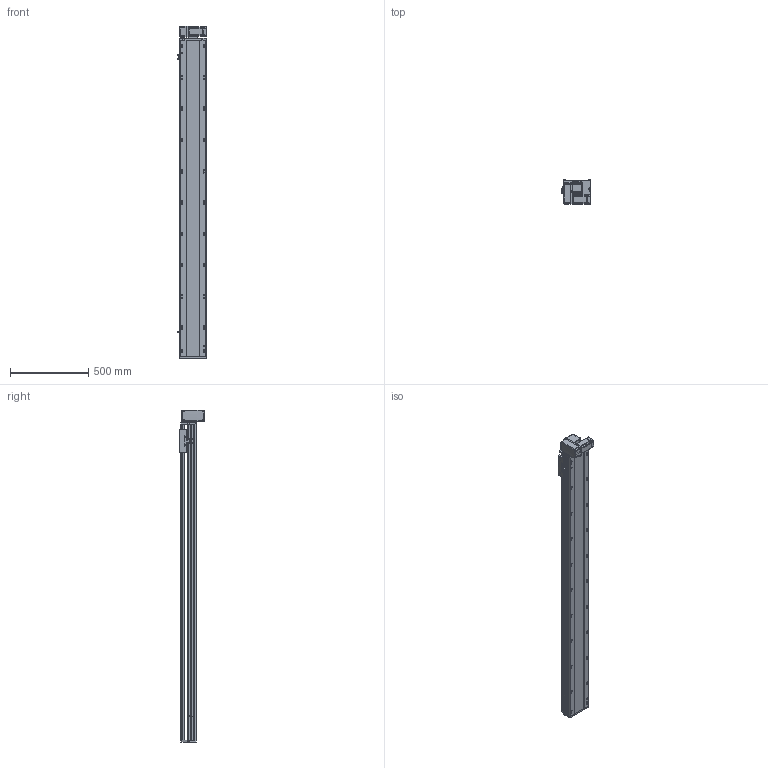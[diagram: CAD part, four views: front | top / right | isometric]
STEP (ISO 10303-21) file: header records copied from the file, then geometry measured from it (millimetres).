
FILE_DESCRIPTION (( 'STEP AP214' ), '1' );
FILE_NAME ('RTB17S-XX-1750-LM-M40-C4.STEP', '2025-12-11T06:30:51', ( '' ), ( '' ), 'SwSTEP 2.0', 'SolidWorks 2018', '' );
FILE_SCHEMA (( 'AUTOMOTIVE_DESIGN' ));
Length unit declared in the file: millimetre
Products named in the file (14): OMRON EE-SX672 传感器^RTB17S-XX-XX-LM-M40-C4; RTB17-R-011菁釱^RTB17S-XX-XX-LM-M40-C4; RTB14-L-008-M20--萇儂啣^RTB17S-LM-々湍釱蚾饜-400W_RTB17S-XX-XX-LM-M40-C4; RTB17S-XX-1750-LM-M40-C4; RTB17S-L-007奻裔^RTB17S-XX-XX-LM-M40-C4; RTB14-L-005P--轴承塑胶压盖^RTB17S-LM-皮带座装配-400W_RTB17S-XX-XX-LM-M40-C4; RTB17S-LM-々湍釱蚾饜-400W^RTB17S-XX-XX-LM-M40-C4; RTH13-BL-012覜茼え俋离^RTB17S-XX-XX-LM-M40-C4; 400W侜督萇儂^RTB17S-XX-XX-LM-M40-C4; RTB17S-L-004佪裝蹟譫蟀諉釱^RTB17S-XX-XX-LM-M40-C4; RTB14-L-018P^RTB17S-LM-々湍釱蚾饜-400W_RTB17S-XX-XX-LM-M40-C4; RTB14-L-017P^RTB17S-LM-々湍釱蚾饜-400W_RTB17S-XX-XX-LM-M40-C4; RMP17S-L-014-T20--々湍釱^RTB17S-LM-々湍釱蚾饜-400W_RTB17S-XX-XX-LM-M40-C4; RTB17S-L-001耜醱啣^RTB17S-XX-XX-LM-M40-C4
Assembly tree (16 placements, depth 3):
  RTB17S-XX-1750-LM-M40-C4
    RTB17-R-011菁釱^RTB17S-XX-XX-LM-M40-C4
    RTB17S-L-007奻裔^RTB17S-XX-XX-LM-M40-C4
    OMRON EE-SX672 传感器^RTB17S-XX-XX-LM-M40-C4  x3
    RTH13-BL-012覜茼え俋离^RTB17S-XX-XX-LM-M40-C4
    RTB17S-L-001耜醱啣^RTB17S-XX-XX-LM-M40-C4
    400W侜督萇儂^RTB17S-XX-XX-LM-M40-C4
    RTB17S-L-004佪裝蹟譫蟀諉釱^RTB17S-XX-XX-LM-M40-C4
    RTB17S-LM-々湍釱蚾饜-400W^RTB17S-XX-XX-LM-M40-C4
      RMP17S-L-014-T20--々湍釱^RTB17S-LM-々湍釱蚾饜-400W_RTB17S-XX-XX-LM-M40-C4
      RTB14-L-005P--轴承塑胶压盖^RTB17S-LM-皮带座装配-400W_RTB17S-XX-XX-LM-M40-C4
      RTB14-L-008-M20--萇儂啣^RTB17S-LM-々湍釱蚾饜-400W_RTB17S-XX-XX-LM-M40-C4
      RTB14-L-017P^RTB17S-LM-々湍釱蚾饜-400W_RTB17S-XX-XX-LM-M40-C4  x2
      RTB14-L-018P^RTB17S-LM-々湍釱蚾饜-400W_RTB17S-XX-XX-LM-M40-C4
Bounding box: 186 x 156.5 x 2122.5 mm (x, y, z)
Volume: 18490544.7 mm3; surface area: 2165033.4 mm2
Topology: 15 solids, 15 shells, 2269 faces, 6303 edges, 4113 vertices
Faces by surface type: plane 1076, cylinder 745, bspline 301, cone 139, torus 8
Entity records: 65705 total; most frequent: CARTESIAN_POINT 18508, ORIENTED_EDGE 9450, DIRECTION 8756, EDGE_CURVE 4725, VERTEX_POINT 3101, AXIS2_PLACEMENT_3D 3031, VECTOR 2694, LINE 2694
